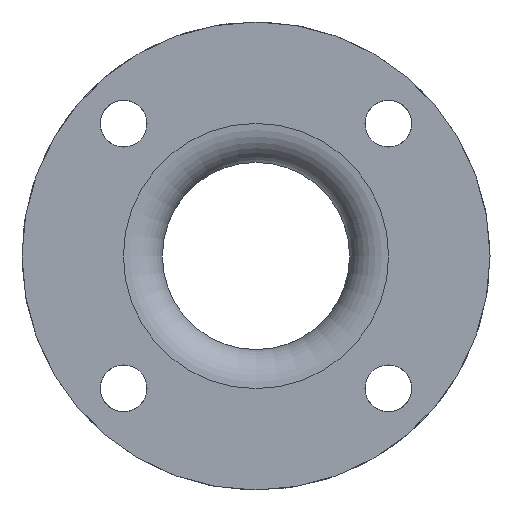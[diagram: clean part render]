
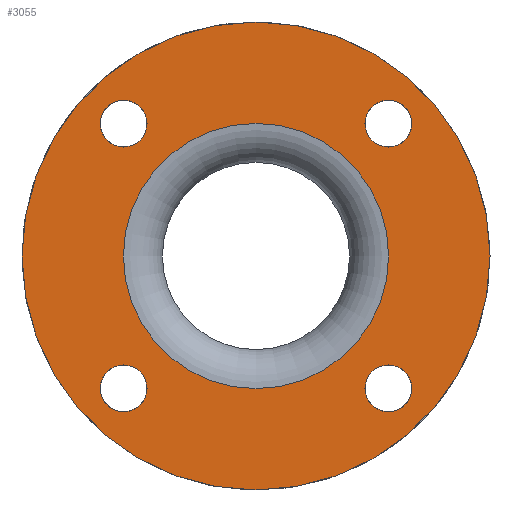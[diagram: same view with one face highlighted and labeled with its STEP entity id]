
A CAD part, front view. The second image highlights one B-rep face of the part: STEP entity #3055.
In plain terms, the highlighted planar face has unit normal (0, -1, 0).
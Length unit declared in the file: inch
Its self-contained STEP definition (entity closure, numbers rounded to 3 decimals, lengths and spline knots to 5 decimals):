
#112=FACE_BOUND('',#561,.T.);
#113=FACE_BOUND('',#562,.T.);
#114=FACE_BOUND('',#563,.T.);
#115=FACE_BOUND('',#564,.T.);
#116=FACE_BOUND('',#565,.T.);
#169=PLANE('',#3452);
#330=FACE_OUTER_BOUND('',#560,.T.);
#560=EDGE_LOOP('',(#2624));
#561=EDGE_LOOP('',(#2625));
#562=EDGE_LOOP('',(#2626));
#563=EDGE_LOOP('',(#2627));
#564=EDGE_LOOP('',(#2628));
#565=EDGE_LOOP('',(#2629));
#1093=CIRCLE('',#3409,0.375);
#1095=CIRCLE('',#3412,0.375);
#1097=CIRCLE('',#3415,0.375);
#1099=CIRCLE('',#3418,0.375);
#1118=CIRCLE('',#3451,3.75);
#1119=CIRCLE('',#3453,2.125);
#1381=VERTEX_POINT('',#5407);
#1383=VERTEX_POINT('',#5412);
#1385=VERTEX_POINT('',#5417);
#1387=VERTEX_POINT('',#5422);
#1406=VERTEX_POINT('',#5474);
#1407=VERTEX_POINT('',#5477);
#1789=EDGE_CURVE('',#1381,#1381,#1093,.T.);
#1791=EDGE_CURVE('',#1383,#1383,#1095,.T.);
#1793=EDGE_CURVE('',#1385,#1385,#1097,.T.);
#1795=EDGE_CURVE('',#1387,#1387,#1099,.T.);
#1814=EDGE_CURVE('',#1406,#1406,#1118,.T.);
#1815=EDGE_CURVE('',#1407,#1407,#1119,.T.);
#2624=ORIENTED_EDGE('',*,*,#1814,.T.);
#2625=ORIENTED_EDGE('',*,*,#1789,.T.);
#2626=ORIENTED_EDGE('',*,*,#1791,.T.);
#2627=ORIENTED_EDGE('',*,*,#1793,.T.);
#2628=ORIENTED_EDGE('',*,*,#1795,.T.);
#2629=ORIENTED_EDGE('',*,*,#1815,.F.);
#3055=ADVANCED_FACE('',(#330,#112,#113,#114,#115,#116),#169,.T.);
#3409=AXIS2_PLACEMENT_3D('',#5408,#4313,#4314);
#3412=AXIS2_PLACEMENT_3D('',#5413,#4319,#4320);
#3415=AXIS2_PLACEMENT_3D('',#5418,#4325,#4326);
#3418=AXIS2_PLACEMENT_3D('',#5423,#4331,#4332);
#3451=AXIS2_PLACEMENT_3D('',#5475,#4397,#4398);
#3452=AXIS2_PLACEMENT_3D('',#5476,#4399,#4400);
#3453=AXIS2_PLACEMENT_3D('',#5478,#4401,#4402);
#4313=DIRECTION('center_axis',(0.,1.,0.));
#4314=DIRECTION('ref_axis',(1.,0.,0.));
#4319=DIRECTION('center_axis',(0.,1.,0.));
#4320=DIRECTION('ref_axis',(0.,0.,
-1.));
#4325=DIRECTION('center_axis',(0.,1.,0.));
#4326=DIRECTION('ref_axis',(-1.,0.,0.));
#4331=DIRECTION('center_axis',(0.,1.,0.));
#4332=DIRECTION('ref_axis',(0.,0.,1.));
#4397=DIRECTION('center_axis',(0.,-1.,0.));
#4398=DIRECTION('ref_axis',(1.,0.,0.));
#4399=DIRECTION('center_axis',(0.,-1.,0.));
#4400=DIRECTION('ref_axis',(0.,0.,-1.));
#4401=DIRECTION('center_axis',(0.,-1.,0.));
#4402=DIRECTION('ref_axis',(1.,0.,0.));
#5407=CARTESIAN_POINT('',(1.74632,-12.,-2.12132));
#5408=CARTESIAN_POINT('Origin',(2.12132,-12.,-2.12132));
#5412=CARTESIAN_POINT('',(-2.12132,-12.,-1.74632));
#5413=CARTESIAN_POINT('Origin',(-2.12132,-12.,-2.12132));
#5417=CARTESIAN_POINT('',(-1.74632,-12.,2.12132));
#5418=CARTESIAN_POINT('Origin',(-2.12132,-12.,2.12132));
#5422=CARTESIAN_POINT('',(2.12132,-12.,1.74632));
#5423=CARTESIAN_POINT('Origin',(2.12132,-12.,2.12132));
#5474=CARTESIAN_POINT('',(3.75,-12.,0.));
#5475=CARTESIAN_POINT('Origin',(0.,-12.,0.));
#5476=CARTESIAN_POINT('Origin',(2.9375,-12.,0.));
#5477=CARTESIAN_POINT('',(2.125,-12.,0.));
#5478=CARTESIAN_POINT('Origin',(0.,-12.,0.));
